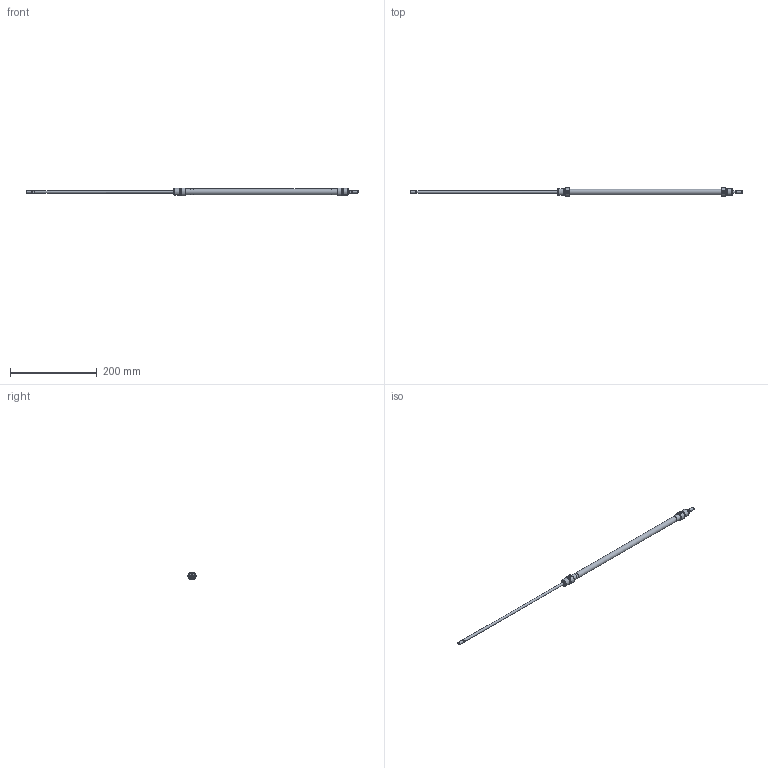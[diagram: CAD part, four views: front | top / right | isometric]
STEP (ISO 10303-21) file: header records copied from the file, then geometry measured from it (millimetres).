
FILE_DESCRIPTION( ( 'STEP AP203' ), '1' );
FILE_NAME( '//expscmdclustefs.cadenas.external/client_exchange/iodir/jobs/output/wkb68411280_no0/STEP/M101-012-0320-M__0__2_03.stp', ' ', ( ' ' ), ( ' ' ), 'PSStep 15.0.47', 'PARTsolutions', ' ' );
FILE_SCHEMA( ( 'CONFIG_CONTROL_DESIGN' ) );
Length unit declared in the file: millimetre
Products named in the file (3): M101-012-0320-M [0]; HI_M101-012-0320-M-[0]-z; HI_M101-012-0320-M-[0]-k
Assembly tree (2 placements, depth 2):
  M101-012-0320-M [0]
    HI_M101-012-0320-M-[0]-z
    HI_M101-012-0320-M-[0]-k
Bounding box: 766 x 18.73 x 17.86 mm (x, y, z)
Volume: 43496.8 mm3; surface area: 47077.8 mm2
Topology: 2 solids, 2 shells, 65 faces, 129 edges, 80 vertices
Faces by surface type: plane 26, cylinder 23, cone 14, torus 2
Full cylindrical faces by diameter (mm): 4.134 x2, 4.773 x2, 6 x6, 12 x2, 13.3 x1, 14.16 x4, 16 x4
Entity records: 1670 total; most frequent: CARTESIAN_POINT 324, DIRECTION 280, ORIENTED_EDGE 184, AXIS2_PLACEMENT_3D 128, EDGE_LOOP 116, EDGE_CURVE 92, FACE_OUTER_BOUND 88, VERTEX_POINT 76
